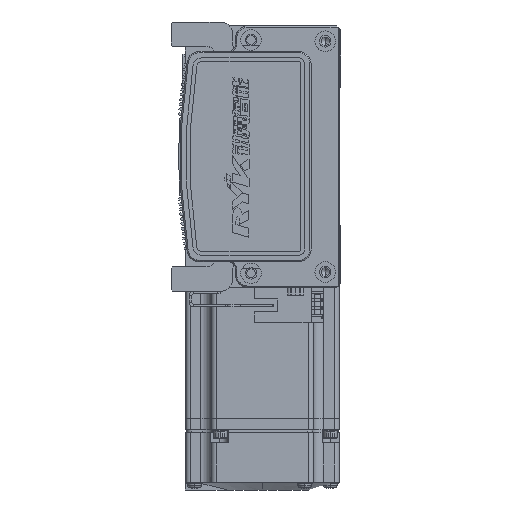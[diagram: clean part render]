
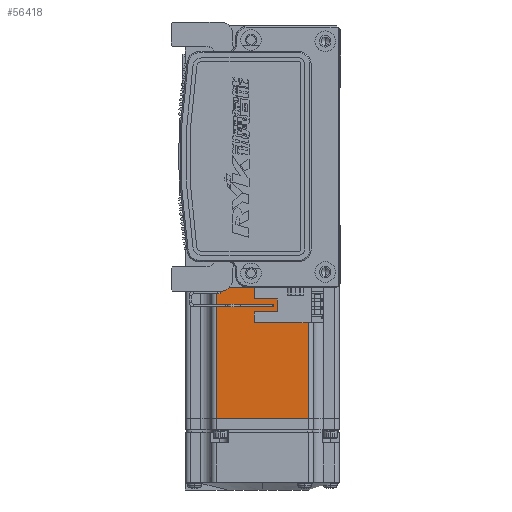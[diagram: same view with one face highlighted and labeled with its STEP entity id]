
A CAD part, left-side view. The second image highlights one B-rep face of the part: STEP entity #56418.
In plain terms, the highlighted planar face has unit normal (-1, 0, 0) as drawn and (0, 0, 1) by its records, which use the part's own axes.
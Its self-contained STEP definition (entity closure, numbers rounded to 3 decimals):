
#2878 = CARTESIAN_POINT ( 'NONE',  ( -7.75, 18., 30. ) ) ;
#4768 = VECTOR ( 'NONE', #58552, 1000. ) ;
#5202 = VECTOR ( 'NONE', #13735, 1000. ) ;
#5649 = LINE ( 'NONE', #48039, #4768 ) ;
#7526 = EDGE_LOOP ( 'NONE', ( #53423, #65481, #8493, #40286 ) ) ;
#8204 = CARTESIAN_POINT ( 'NONE',  ( -7.75, 0., 30. ) ) ;
#8493 = ORIENTED_EDGE ( 'NONE', *, *, #44579, .T. ) ;
#8924 = VERTEX_POINT ( 'NONE', #28361 ) ;
#13735 = DIRECTION ( 'NONE',  ( 0., -1., 0. ) ) ;
#19546 = EDGE_CURVE ( 'NONE', #48861, #29719, #19826, .T. ) ;
#19826 = LINE ( 'NONE', #8204, #5202 ) ;
#21865 = DIRECTION ( 'NONE',  ( 1., 0., 0. ) ) ;
#24274 = CARTESIAN_POINT ( 'NONE',  ( -70.95, 0., 30. ) ) ;
#25707 = VECTOR ( 'NONE', #68915, 1000. ) ;
#27146 = CARTESIAN_POINT ( 'NONE',  ( -6.5, -25., 30. ) ) ;
#28361 = CARTESIAN_POINT ( 'NONE',  ( -70.95, 18., 30. ) ) ;
#29719 = VERTEX_POINT ( 'NONE', #57483 ) ;
#35289 = EDGE_CURVE ( 'NONE', #48861, #8924, #42755, .T. ) ;
#35684 = CARTESIAN_POINT ( 'NONE',  ( -70.95, -18., 30. ) ) ;
#40286 = ORIENTED_EDGE ( 'NONE', *, *, #42489, .F. ) ;
#42085 = LINE ( 'NONE', #24274, #25707 ) ;
#42489 = EDGE_CURVE ( 'NONE', #29719, #62048, #5649, .T. ) ;
#42755 = LINE ( 'NONE', #69682, #58182 ) ;
#44579 = EDGE_CURVE ( 'NONE', #8924, #62048, #42085, .T. ) ;
#48039 = CARTESIAN_POINT ( 'NONE',  ( -6.5, -18., 30. ) ) ;
#48861 = VERTEX_POINT ( 'NONE', #2878 ) ;
#53423 = ORIENTED_EDGE ( 'NONE', *, *, #19546, .F. ) ;
#53651 = FACE_OUTER_BOUND ( 'NONE', #7526, .T. ) ;
#56418 = ADVANCED_FACE ( 'NONE', ( #53651 ), #60015, .T. ) ;
#57483 = CARTESIAN_POINT ( 'NONE',  ( -7.75, -18., 30. ) ) ;
#58182 = VECTOR ( 'NONE', #69202, 1000. ) ;
#58552 = DIRECTION ( 'NONE',  ( -1., 0., 0. ) ) ;
#60015 = PLANE ( 'NONE',  #70616 ) ;
#62048 = VERTEX_POINT ( 'NONE', #35684 ) ;
#65481 = ORIENTED_EDGE ( 'NONE', *, *, #35289, .T. ) ;
#68915 = DIRECTION ( 'NONE',  ( 0., -1., 0. ) ) ;
#69202 = DIRECTION ( 'NONE',  ( -1., 0., 0. ) ) ;
#69682 = CARTESIAN_POINT ( 'NONE',  ( -6.5, 18., 30. ) ) ;
#70616 = AXIS2_PLACEMENT_3D ( 'NONE', #27146, #71072, #21865 ) ;
#71072 = DIRECTION ( 'NONE',  ( 0., 0., 1. ) ) ;
